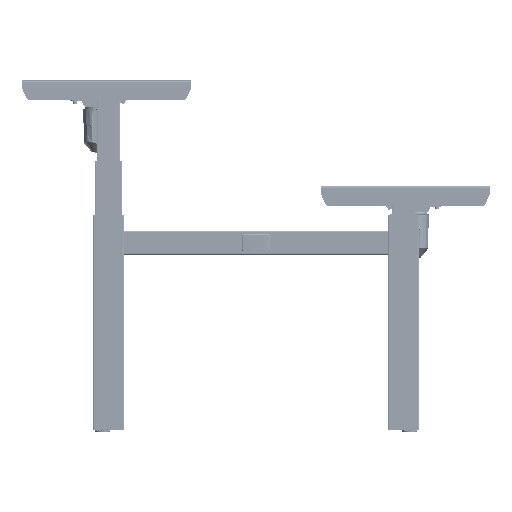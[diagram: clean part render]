
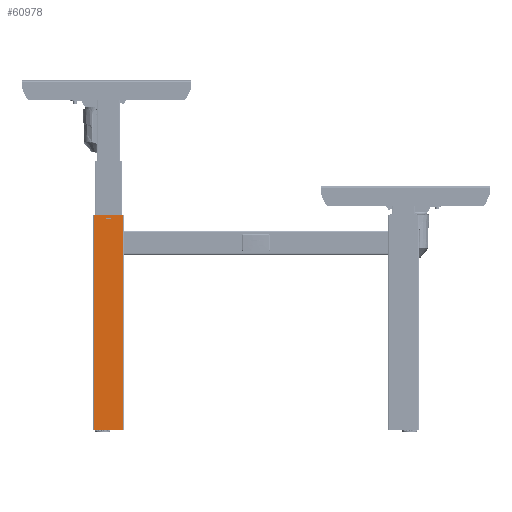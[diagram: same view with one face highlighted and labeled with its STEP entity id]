
A CAD part, left-side view. The second image highlights one B-rep face of the part: STEP entity #60978.
In plain terms, the highlighted planar face has unit normal (-1, 0, 0).
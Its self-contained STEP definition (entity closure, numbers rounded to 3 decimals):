
#3562 = FACE_BOUND ( 'NONE', #13178, .T. ) ;
#6477 = DIRECTION ( 'NONE',  ( 0., -1., 0. ) ) ;
#7404 = VECTOR ( 'NONE', #61938, 1000. ) ;
#8185 = CARTESIAN_POINT ( 'NONE',  ( -30., 37., 0. ) ) ;
#8536 = ORIENTED_EDGE ( 'NONE', *, *, #46540, .T. ) ;
#10659 = VECTOR ( 'NONE', #56880, 1000. ) ;
#10709 = DIRECTION ( 'NONE',  ( 0., 1., 0. ) ) ;
#13178 = EDGE_LOOP ( 'NONE', ( #63286, #8536, #62870, #63219 ) ) ;
#17880 = LINE ( 'NONE', #94450, #48726 ) ;
#19477 = VERTEX_POINT ( 'NONE', #98780 ) ;
#19896 = VERTEX_POINT ( 'NONE', #85967 ) ;
#20075 = CARTESIAN_POINT ( 'NONE',  ( -30., -37., 545. ) ) ;
#23401 = CARTESIAN_POINT ( 'NONE',  ( -30., 6., 10. ) ) ;
#23868 = DIRECTION ( 'NONE',  ( 0., 0., -1. ) ) ;
#24155 = CARTESIAN_POINT ( 'NONE',  ( -30., -6., 10. ) ) ;
#24871 = EDGE_CURVE ( 'NONE', #63833, #69667, #49037, .T. ) ;
#25059 = ORIENTED_EDGE ( 'NONE', *, *, #74401, .F. ) ;
#26110 = PLANE ( 'NONE',  #102691 ) ;
#26313 = EDGE_LOOP ( 'NONE', ( #90915, #25059, #103166, #31211 ) ) ;
#27756 = LINE ( 'NONE', #69066, #7404 ) ;
#29049 = EDGE_CURVE ( 'NONE', #48690, #53771, #61701, .T. ) ;
#31211 = ORIENTED_EDGE ( 'NONE', *, *, #29049, .T. ) ;
#33116 = CARTESIAN_POINT ( 'NONE',  ( -30., -6., 6. ) ) ;
#35368 = VECTOR ( 'NONE', #39489, 1000. ) ;
#36000 = DIRECTION ( 'NONE',  ( 0., 0., -1. ) ) ;
#36032 = VECTOR ( 'NONE', #92203, 1000. ) ;
#39489 = DIRECTION ( 'NONE',  ( 0., 0., 1. ) ) ;
#45268 = VECTOR ( 'NONE', #6477, 1000. ) ;
#45895 = CARTESIAN_POINT ( 'NONE',  ( -30., 37., 545. ) ) ;
#46540 = EDGE_CURVE ( 'NONE', #95582, #63833, #17880, .T. ) ;
#48304 = CARTESIAN_POINT ( 'NONE',  ( -30., 6., 6. ) ) ;
#48690 = VERTEX_POINT ( 'NONE', #45895 ) ;
#48726 = VECTOR ( 'NONE', #95511, 1000. ) ;
#49037 = LINE ( 'NONE', #94032, #99028 ) ;
#51023 = CARTESIAN_POINT ( 'NONE',  ( -30., 37., 545. ) ) ;
#53386 = CARTESIAN_POINT ( 'NONE',  ( -30., 37., 545. ) ) ;
#53771 = VERTEX_POINT ( 'NONE', #8185 ) ;
#56880 = DIRECTION ( 'NONE',  ( 0., 1., 0. ) ) ;
#57556 = EDGE_CURVE ( 'NONE', #53771, #19896, #27756, .T. ) ;
#60978 = ADVANCED_FACE ( 'NONE', ( #3562, #79194 ), #26110, .F. ) ;
#61701 = LINE ( 'NONE', #51023, #36032 ) ;
#61938 = DIRECTION ( 'NONE',  ( 0., -1., 0. ) ) ;
#62330 = EDGE_CURVE ( 'NONE', #19477, #95582, #89266, .T. ) ;
#62870 = ORIENTED_EDGE ( 'NONE', *, *, #24871, .T. ) ;
#63219 = ORIENTED_EDGE ( 'NONE', *, *, #103803, .T. ) ;
#63286 = ORIENTED_EDGE ( 'NONE', *, *, #62330, .T. ) ;
#63833 = VERTEX_POINT ( 'NONE', #24155 ) ;
#64780 = CARTESIAN_POINT ( 'NONE',  ( -30., -37., 545. ) ) ;
#69066 = CARTESIAN_POINT ( 'NONE',  ( -30., 37., 0. ) ) ;
#69667 = VERTEX_POINT ( 'NONE', #33116 ) ;
#74401 = EDGE_CURVE ( 'NONE', #103064, #19896, #95962, .T. ) ;
#79194 = FACE_OUTER_BOUND ( 'NONE', #26313, .T. ) ;
#83613 = EDGE_CURVE ( 'NONE', #48690, #103064, #102950, .T. ) ;
#85967 = CARTESIAN_POINT ( 'NONE',  ( -30., -37., 0. ) ) ;
#88550 = CARTESIAN_POINT ( 'NONE',  ( -30., 6., 10. ) ) ;
#89266 = LINE ( 'NONE', #88550, #35368 ) ;
#90200 = VECTOR ( 'NONE', #23868, 1000. ) ;
#90915 = ORIENTED_EDGE ( 'NONE', *, *, #57556, .T. ) ;
#91663 = CARTESIAN_POINT ( 'NONE',  ( -30., 37., 545. ) ) ;
#92203 = DIRECTION ( 'NONE',  ( 0., 0., -1. ) ) ;
#94032 = CARTESIAN_POINT ( 'NONE',  ( -30., -6., 10. ) ) ;
#94450 = CARTESIAN_POINT ( 'NONE',  ( -30., 6., 10. ) ) ;
#95511 = DIRECTION ( 'NONE',  ( 0., -1., 0. ) ) ;
#95582 = VERTEX_POINT ( 'NONE', #23401 ) ;
#95962 = LINE ( 'NONE', #64780, #90200 ) ;
#98780 = CARTESIAN_POINT ( 'NONE',  ( -30., 6., 6. ) ) ;
#99028 = VECTOR ( 'NONE', #36000, 1000. ) ;
#99083 = LINE ( 'NONE', #48304, #10659 ) ;
#99925 = DIRECTION ( 'NONE',  ( 1., 0., 0. ) ) ;
#102691 = AXIS2_PLACEMENT_3D ( 'NONE', #91663, #99925, #10709 ) ;
#102950 = LINE ( 'NONE', #53386, #45268 ) ;
#103064 = VERTEX_POINT ( 'NONE', #20075 ) ;
#103166 = ORIENTED_EDGE ( 'NONE', *, *, #83613, .F. ) ;
#103803 = EDGE_CURVE ( 'NONE', #69667, #19477, #99083, .T. ) ;
